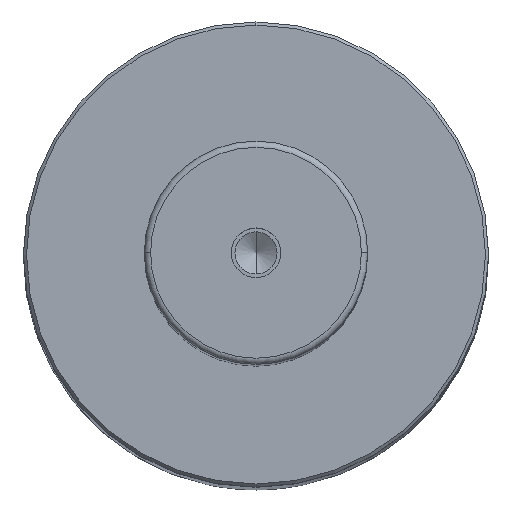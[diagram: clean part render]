
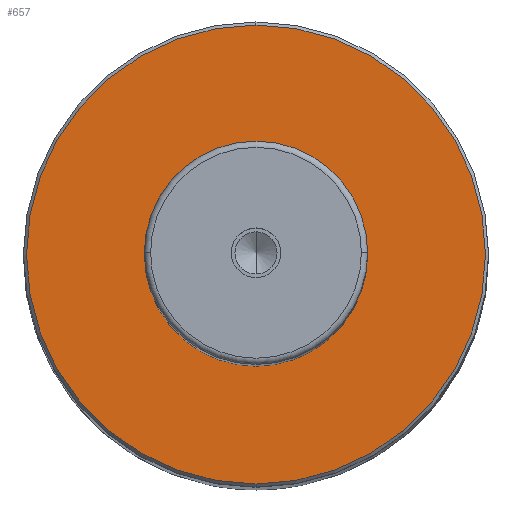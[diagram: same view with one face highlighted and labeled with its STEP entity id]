
A CAD part, top view. The second image highlights one B-rep face of the part: STEP entity #657.
In plain terms, the highlighted planar face has unit normal (0, 0, 1).
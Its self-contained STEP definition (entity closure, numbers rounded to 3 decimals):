
#459 = VERTEX_POINT( '', #1128 );
#471 = EDGE_CURVE( '', #899, #459, #1141, .T. );
#561 = EDGE_CURVE( '', #791, #849, #1247, .T. );
#657 = ADVANCED_FACE( '', ( #1354, #1355 ), #1356, .T. );
#791 = VERTEX_POINT( '', #1500 );
#849 = VERTEX_POINT( '', #1568 );
#867 = EDGE_CURVE( '', #849, #791, #1587, .T. );
#899 = VERTEX_POINT( '', #1623 );
#987 = EDGE_CURVE( '', #459, #899, #1724, .T. );
#1128 = CARTESIAN_POINT( '', ( 0., -18., 267. ) );
#1141 = CIRCLE( '', #1949, 18. );
#1247 = CIRCLE( '', #2121, 37. );
#1354 = FACE_BOUND( '', #2255, .T. );
#1355 = FACE_OUTER_BOUND( '', #2256, .T. );
#1356 = PLANE( '', #2257 );
#1500 = CARTESIAN_POINT( '', ( 0., -37., 267. ) );
#1568 = CARTESIAN_POINT( '', ( 0., 37., 267. ) );
#1587 = CIRCLE( '', #2594, 37. );
#1623 = CARTESIAN_POINT( '', ( 0., 18., 267. ) );
#1724 = CIRCLE( '', #2812, 18. );
#1949 = AXIS2_PLACEMENT_3D( '', #2961, #2962, #2963 );
#2121 = AXIS2_PLACEMENT_3D( '', #3131, #3132, #3133 );
#2255 = EDGE_LOOP( '', ( #3277, #3278 ) );
#2256 = EDGE_LOOP( '', ( #3279, #3280 ) );
#2257 = AXIS2_PLACEMENT_3D( '', #3281, #3282, #3283 );
#2594 = AXIS2_PLACEMENT_3D( '', #3535, #3536, #3537 );
#2812 = AXIS2_PLACEMENT_3D( '', #3696, #3697, #3698 );
#2961 = CARTESIAN_POINT( '', ( 0., 0., 267. ) );
#2962 = DIRECTION( '', ( 0., 0., 1. ) );
#2963 = DIRECTION( '', ( 0., 1., 0. ) );
#3131 = CARTESIAN_POINT( '', ( 0., 0., 267. ) );
#3132 = DIRECTION( '', ( 0., 0., 1. ) );
#3133 = DIRECTION( '', ( 0., 1., 0. ) );
#3277 = ORIENTED_EDGE( '', *, *, #471, .F. );
#3278 = ORIENTED_EDGE( '', *, *, #987, .F. );
#3279 = ORIENTED_EDGE( '', *, *, #867, .T. );
#3280 = ORIENTED_EDGE( '', *, *, #561, .T. );
#3281 = CARTESIAN_POINT( '', ( 0., 27.5, 267. ) );
#3282 = DIRECTION( '', ( 0., 0., 1. ) );
#3283 = DIRECTION( '', ( 0., 1., 0. ) );
#3535 = CARTESIAN_POINT( '', ( 0., 0., 267. ) );
#3536 = DIRECTION( '', ( 0., 0., 1. ) );
#3537 = DIRECTION( '', ( 0., 1., 0. ) );
#3696 = CARTESIAN_POINT( '', ( 0., 0., 267. ) );
#3697 = DIRECTION( '', ( 0., 0., 1. ) );
#3698 = DIRECTION( '', ( 0., 1., 0. ) );
